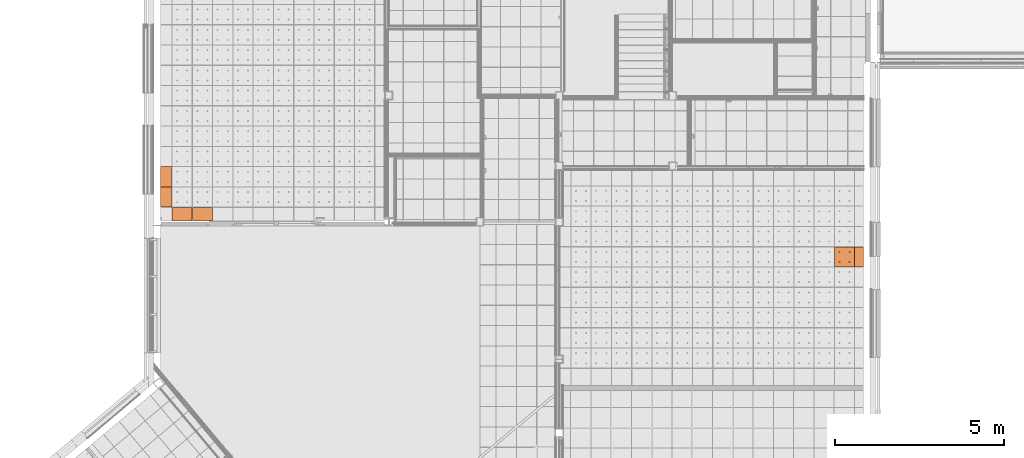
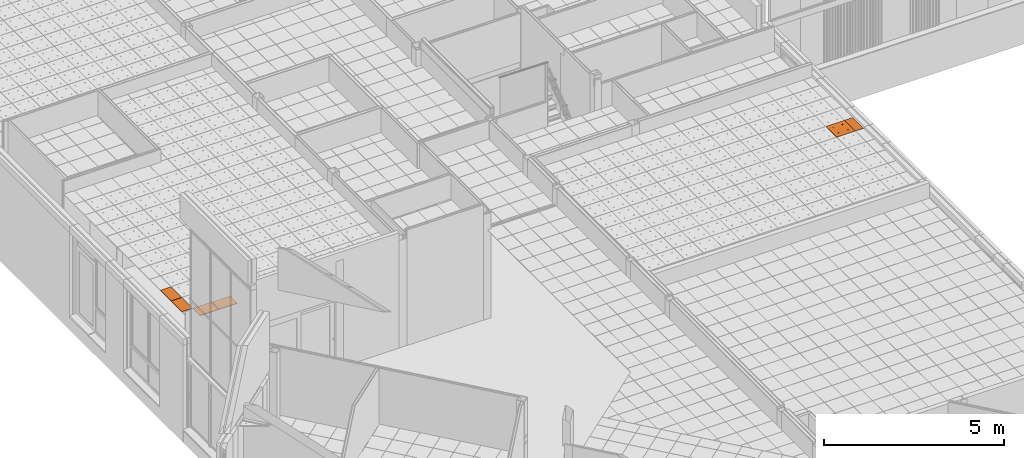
# One storey, part 231 of 338: 6 proxies, 2 elements without a shape of their own.
"""IFC2X3 building model written with IfcOpenShell, lengths in millimetres."""

from ifc_helpers import new_model, entity, si_unit, converted_unit, derived_unit, money_unit, direction, frame, origin_with_axes, place, context, subcontext, project, spatial, faceted_brep, source, transform, mapped, material, type_object, type_shapes, element, aggregate, save


model = new_model("IFC2X3")

# Units and contexts
model_context = context("Model", 3, precision=0.01, world=origin_with_axes(), true_north=direction((0.0, 1.0)))
plan_context = context("Plan", 3, precision=0.01, world=origin_with_axes(), true_north=direction((0.0, 1.0)))
body_context = subcontext(model_context, "Body", "Model", "MODEL_VIEW")
ifc_project = project(units=[si_unit("LENGTHUNIT", "METRE", prefix="MILLI"), si_unit("AREAUNIT", "SQUARE_METRE"), si_unit("VOLUMEUNIT", "CUBIC_METRE"), converted_unit("PLANEANGLEUNIT", "DEGREE", entity("IfcPlaneAngleMeasure", 0.0174532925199), si_unit("PLANEANGLEUNIT", "RADIAN"), dimensions=[0, 0, 0, 0, 0, 0, 0]), money_unit("EUR"), converted_unit("TIMEUNIT", "Year", entity("IfcTimeMeasure", 31556926.0), si_unit("TIMEUNIT", "SECOND"), dimensions=[0, 0, 1, 0, 0, 0, 0]), si_unit("MASSUNIT", "GRAM", prefix="KILO"), si_unit("THERMODYNAMICTEMPERATUREUNIT", "DEGREE_CELSIUS"), si_unit("LUMINOUSINTENSITYUNIT", "LUMEN"), si_unit("ENERGYUNIT", "JOULE", prefix="MEGA"), derived_unit("THERMALCONDUCTANCEUNIT", [(si_unit("POWERUNIT", "WATT"), 1), (si_unit("LENGTHUNIT", "METRE"), -1), (si_unit("THERMODYNAMICTEMPERATUREUNIT", "KELVIN"), -1)]), derived_unit("SPECIFICHEATCAPACITYUNIT", [(si_unit("ENERGYUNIT", "JOULE"), 1), (si_unit("MASSUNIT", "GRAM", prefix="KILO"), -1), (si_unit("THERMODYNAMICTEMPERATUREUNIT", "KELVIN"), -1)]), derived_unit("MASSDENSITYUNIT", [(si_unit("MASSUNIT", "GRAM", prefix="KILO"), 1), (si_unit("VOLUMEUNIT", "CUBIC_METRE"), -1)])], contexts=[model_context, plan_context])

# Site, building, storey
site_placement = place(None, origin_with_axes())
site = spatial("IfcSite", under=ifc_project, at=site_placement, Name="Fortuinstraat Woensdrecht", CompositionType="ELEMENT")
building_placement = place(site_placement, origin_with_axes())
building = spatial("IfcBuilding", under=site, at=building_placement, Name="IKC Fortuna", CompositionType="ELEMENT")
storey_placement = place(building_placement, origin_with_axes())
storey = spatial("IfcBuildingStorey", under=building, at=storey_placement, Name="00 begane grond", CompositionType="ELEMENT", Elevation=0.0)

# Covering, proxy
covering_type = type_object("IfcCoveringType", Name="Curtain Wall Type", PredefinedType="CEILING")
covering_1_placement = place(storey_placement, frame((31656.9226967, 15748.5304598, 3210.0), z_axis=(0.0, 0.0, 1.0), x_axis=(1.0, 0.0, 0.0)))
covering_1 = element("IfcCovering", 1, at=covering_1_placement, inside=storey, type_object=covering_type, Name="45_Plafondafwerking_P01", PredefinedType="CEILING")
ifc_material = material(Name="Gipsplaat")
building_element_proxy_type_1 = type_object("IfcBuildingElementProxyType", Name="Main Panel 600 x 600 x 20", PredefinedType="NOTDEFINED")
shared_shape_1 = source(origin_with_axes(), body_context, "Body", "Brep", [
    faceted_brep([(2.49999999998, 2.49999999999, -10.0), (300.0, 2.49999999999, -10.0), (300.0, 2.49999999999, 10.0), (2.49999999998, 2.49999999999, 10.0), (2.49999999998, 300.0, -10.0), (2.49999999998, 597.5, -10.0), (300.0, 597.5, -10.0), (597.5, 597.5, -10.0), (597.5, 300.0, -10.0), (597.5, 2.49999999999, -10.0), (166.25, 450.06232995, -10.0), (165.79423259, 452.64711538, -10.0), (164.896546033, 455.11348892, -10.0), (163.58421608, 457.38651108, -10.0), (161.897117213, 459.39711721, -10.0), (159.886511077, 461.08421608, -10.0), (157.613488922, 462.39654603, -10.0), (155.147115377, 463.29423259, -10.0), (152.562329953, 463.75, -10.0), (149.937670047, 463.75, -10.0), (147.352884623, 463.29423259, -10.0), (144.886511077, 462.39654603, -10.0), (142.613488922, 461.08421608, -10.0), (140.602882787, 459.39711721, -10.0), (138.91578392, 457.38651108, -10.0), (137.603453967, 455.11348892, -10.0), (136.705767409, 452.64711538, -10.0), (136.25, 450.06232995, -10.0), (136.25, 448.75, -10.0), (136.25, 447.43767005, -10.0), (136.705767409, 444.85288462, -10.0), (137.603453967, 442.38651108, -10.0), (138.91578392, 440.11348892, -10.0), (140.602882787, 438.10288279, -10.0), (142.613488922, 436.41578392, -10.0), (144.886511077, 435.10345397, -10.0), (147.352884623, 434.20576741, -10.0), (149.937670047, 433.75, -10.0), (152.562329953, 433.75, -10.0), (155.147115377, 434.20576741, -10.0), (157.613488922, 435.10345397, -10.0), (159.886511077, 436.41578392, -10.0), (161.897117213, 438.10288279, -10.0), (163.58421608, 440.11348892, -10.0), (164.896546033, 442.38651108, -10.0), (165.79423259, 444.85288462, -10.0), (166.25, 447.43767005, -10.0), (463.75, 450.06232995, -10.0), (463.29423259, 452.64711538, -10.0), (462.396546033, 455.11348892, -10.0), (461.08421608, 457.38651108, -10.0), (459.397117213, 459.39711721, -10.0), (457.386511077, 461.08421608, -10.0), (455.113488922, 462.39654603, -10.0), (452.647115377, 463.29423259, -10.0), (450.062329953, 463.75, -10.0), (447.437670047, 463.75, -10.0), (444.852884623, 463.29423259, -10.0), (442.386511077, 462.39654603, -10.0), (440.113488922, 461.08421608, -10.0), (438.102882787, 459.39711721, -10.0), (436.41578392, 457.38651108, -10.0), (435.103453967, 455.11348892, -10.0), (434.205767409, 452.64711538, -10.0), (433.75, 450.06232995, -10.0), (433.75, 448.75, -10.0), (433.75, 447.43767005, -10.0), (434.205767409, 444.85288462, -10.0), (435.103453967, 442.38651108, -10.0), (436.41578392, 440.11348892, -10.0), (438.102882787, 438.10288279, -10.0), (440.113488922, 436.41578392, -10.0), (442.386511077, 435.10345397, -10.0), (444.852884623, 434.20576741, -10.0), (447.437670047, 433.75, -10.0), (450.062329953, 433.75, -10.0), (452.647115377, 434.20576741, -10.0), (455.113488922, 435.10345397, -10.0), (457.386511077, 436.41578392, -10.0), (459.397117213, 438.10288279, -10.0), (461.08421608, 440.11348892, -10.0), (462.396546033, 442.38651108, -10.0), (463.29423259, 444.85288462, -10.0), (463.75, 447.43767005, -10.0), (463.75, 152.56232995, -10.0), (463.29423259, 155.14711538, -10.0), (462.396546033, 157.61348892, -10.0), (461.08421608, 159.88651108, -10.0), (459.397117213, 161.89711721, -10.0), (457.386511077, 163.58421608, -10.0), (455.113488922, 164.89654603, -10.0), (452.647115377, 165.79423259, -10.0), (450.062329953, 166.25, -10.0), (447.437670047, 166.25, -10.0), (444.852884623, 165.79423259, -10.0), (442.386511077, 164.89654603, -10.0), (440.113488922, 163.58421608, -10.0), (438.102882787, 161.89711721, -10.0), (436.41578392, 159.88651108, -10.0), (435.103453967, 157.61348892, -10.0), (434.205767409, 155.14711538, -10.0), (433.75, 152.56232995, -10.0), (433.75, 151.25, -10.0), (433.75, 149.93767005, -10.0), (434.205767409, 147.35288462, -10.0), (435.103453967, 144.88651108, -10.0), (436.41578392, 142.61348892, -10.0), (438.102882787, 140.60288279, -10.0), (440.113488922, 138.91578392, -10.0), (442.386511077, 137.60345397, -10.0), (444.852884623, 136.70576741, -10.0), (447.437670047, 136.25, -10.0), (450.062329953, 136.25, -10.0), (452.647115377, 136.70576741, -10.0), (455.113488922, 137.60345397, -10.0), (457.386511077, 138.91578392, -10.0), (459.397117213, 140.60288279, -10.0), (461.08421608, 142.61348892, -10.0), (462.396546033, 144.88651108, -10.0), (463.29423259, 147.35288462, -10.0), (463.75, 149.93767005, -10.0), (166.25, 152.56232995, -10.0), (165.79423259, 155.14711538, -10.0), (164.896546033, 157.61348892, -10.0), (163.58421608, 159.88651108, -10.0), (161.897117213, 161.89711721, -10.0), (159.886511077, 163.58421608, -10.0), (157.613488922, 164.89654603, -10.0), (155.147115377, 165.79423259, -10.0), (152.562329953, 166.25, -10.0), (149.937670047, 166.25, -10.0), (147.352884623, 165.79423259, -10.0), (144.886511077, 164.89654603, -10.0), (142.613488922, 163.58421608, -10.0), (140.602882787, 161.89711721, -10.0), (138.91578392, 159.88651108, -10.0), (137.603453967, 157.61348892, -10.0), (136.705767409, 155.14711538, -10.0), (136.25, 152.56232995, -10.0), (136.25, 151.25, -10.0), (136.25, 149.93767005, -10.0), (136.705767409, 147.35288462, -10.0), (137.603453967, 144.88651108, -10.0), (138.91578392, 142.61348892, -10.0), (140.602882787, 140.60288279, -10.0), (142.613488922, 138.91578392, -10.0), (144.886511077, 137.60345397, -10.0), (147.352884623, 136.70576741, -10.0), (149.937670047, 136.25, -10.0), (152.562329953, 136.25, -10.0), (155.147115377, 136.70576741, -10.0), (157.613488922, 137.60345397, -10.0), (159.886511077, 138.91578392, -10.0), (161.897117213, 140.60288279, -10.0), (163.58421608, 142.61348892, -10.0), (164.896546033, 144.88651108, -10.0), (165.79423259, 147.35288462, -10.0), (166.25, 149.93767005, -10.0), (597.5, 2.49999999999, 10.0), (597.5, 300.0, 10.0), (597.5, 597.5, 10.0), (300.0, 597.5, 10.0), (2.49999999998, 597.5, 10.0), (2.49999999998, 300.0, 10.0), (166.25, 450.06232995, 10.0), (166.25, 447.43767005, 10.0), (165.79423259, 444.85288462, 10.0), (164.896546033, 442.38651108, 10.0), (163.58421608, 440.11348892, 10.0), (161.897117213, 438.10288279, 10.0), (159.886511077, 436.41578392, 10.0), (157.613488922, 435.10345397, 10.0), (155.147115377, 434.20576741, 10.0), (152.562329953, 433.75, 10.0), (149.937670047, 433.75, 10.0), (147.352884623, 434.20576741, 10.0), (144.886511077, 435.10345397, 10.0), (142.613488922, 436.41578392, 10.0), (140.602882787, 438.10288279, 10.0), (138.91578392, 440.11348892, 10.0), (137.603453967, 442.38651108, 10.0), (136.705767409, 444.85288462, 10.0), (136.25, 447.43767005, 10.0), (136.25, 448.75, 10.0), (136.25, 450.06232995, 10.0), (136.705767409, 452.64711538, 10.0), (137.603453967, 455.11348892, 10.0), (138.91578392, 457.38651108, 10.0), (140.602882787, 459.39711721, 10.0), (142.613488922, 461.08421608, 10.0), (144.886511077, 462.39654603, 10.0), (147.352884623, 463.29423259, 10.0), (149.937670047, 463.75, 10.0), (152.562329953, 463.75, 10.0), (155.147115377, 463.29423259, 10.0), (157.613488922, 462.39654603, 10.0), (159.886511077, 461.08421608, 10.0), (161.897117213, 459.39711721, 10.0), (163.58421608, 457.38651108, 10.0), (164.896546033, 455.11348892, 10.0), (165.79423259, 452.64711538, 10.0), (463.75, 450.06232995, 10.0), (463.75, 447.43767005, 10.0), (463.29423259, 444.85288462, 10.0), (462.396546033, 442.38651108, 10.0), (461.08421608, 440.11348892, 10.0), (459.397117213, 438.10288279, 10.0), (457.386511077, 436.41578392, 10.0), (455.113488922, 435.10345397, 10.0), (452.647115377, 434.20576741, 10.0), (450.062329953, 433.75, 10.0), (447.437670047, 433.75, 10.0), (444.852884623, 434.20576741, 10.0), (442.386511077, 435.10345397, 10.0), (440.113488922, 436.41578392, 10.0), (438.102882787, 438.10288279, 10.0), (436.41578392, 440.11348892, 10.0), (435.103453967, 442.38651108, 10.0), (434.205767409, 444.85288462, 10.0), (433.75, 447.43767005, 10.0), (433.75, 448.75, 10.0), (433.75, 450.06232995, 10.0), (434.205767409, 452.64711538, 10.0), (435.103453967, 455.11348892, 10.0), (436.41578392, 457.38651108, 10.0), (438.102882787, 459.39711721, 10.0), (440.113488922, 461.08421608, 10.0), (442.386511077, 462.39654603, 10.0), (444.852884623, 463.29423259, 10.0), (447.437670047, 463.75, 10.0), (450.062329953, 463.75, 10.0), (452.647115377, 463.29423259, 10.0), (455.113488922, 462.39654603, 10.0), (457.386511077, 461.08421608, 10.0), (459.397117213, 459.39711721, 10.0), (461.08421608, 457.38651108, 10.0), (462.396546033, 455.11348892, 10.0), (463.29423259, 452.64711538, 10.0), (463.75, 152.56232995, 10.0), (463.75, 149.93767005, 10.0), (463.29423259, 147.35288462, 10.0), (462.396546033, 144.88651108, 10.0), (461.08421608, 142.61348892, 10.0), (459.397117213, 140.60288279, 10.0), (457.386511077, 138.91578392, 10.0), (455.113488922, 137.60345397, 10.0), (452.647115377, 136.70576741, 10.0), (450.062329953, 136.25, 10.0), (447.437670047, 136.25, 10.0), (444.852884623, 136.70576741, 10.0), (442.386511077, 137.60345397, 10.0), (440.113488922, 138.91578392, 10.0), (438.102882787, 140.60288279, 10.0), (436.41578392, 142.61348892, 10.0), (435.103453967, 144.88651108, 10.0), (434.205767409, 147.35288462, 10.0), (433.75, 149.93767005, 10.0), (433.75, 151.25, 10.0), (433.75, 152.56232995, 10.0), (434.205767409, 155.14711538, 10.0), (435.103453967, 157.61348892, 10.0), (436.41578392, 159.88651108, 10.0), (438.102882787, 161.89711721, 10.0), (440.113488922, 163.58421608, 10.0), (442.386511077, 164.89654603, 10.0), (444.852884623, 165.79423259, 10.0), (447.437670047, 166.25, 10.0), (450.062329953, 166.25, 10.0), (452.647115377, 165.79423259, 10.0), (455.113488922, 164.89654603, 10.0), (457.386511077, 163.58421608, 10.0), (459.397117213, 161.89711721, 10.0), (461.08421608, 159.88651108, 10.0), (462.396546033, 157.61348892, 10.0), (463.29423259, 155.14711538, 10.0), (166.25, 152.56232995, 10.0), (166.25, 149.93767005, 10.0), (165.79423259, 147.35288462, 10.0), (164.896546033, 144.88651108, 10.0), (163.58421608, 142.61348892, 10.0), (161.897117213, 140.60288279, 10.0), (159.886511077, 138.91578392, 10.0), (157.613488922, 137.60345397, 10.0), (155.147115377, 136.70576741, 10.0), (152.562329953, 136.25, 10.0), (149.937670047, 136.25, 10.0), (147.352884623, 136.70576741, 10.0), (144.886511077, 137.60345397, 10.0), (142.613488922, 138.91578392, 10.0), (140.602882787, 140.60288279, 10.0), (138.91578392, 142.61348892, 10.0), (137.603453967, 144.88651108, 10.0), (136.705767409, 147.35288462, 10.0), (136.25, 149.93767005, 10.0), (136.25, 151.25, 10.0), (136.25, 152.56232995, 10.0), (136.705767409, 155.14711538, 10.0), (137.603453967, 157.61348892, 10.0), (138.91578392, 159.88651108, 10.0), (140.602882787, 161.89711721, 10.0), (142.613488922, 163.58421608, 10.0), (144.886511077, 164.89654603, 10.0), (147.352884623, 165.79423259, 10.0), (149.937670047, 166.25, 10.0), (152.562329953, 166.25, 10.0), (155.147115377, 165.79423259, 10.0), (157.613488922, 164.89654603, 10.0), (159.886511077, 163.58421608, 10.0), (161.897117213, 161.89711721, 10.0), (163.58421608, 159.88651108, 10.0), (164.896546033, 157.61348892, 10.0), (165.79423259, 155.14711538, 10.0)], [[[0, 1, 2, 3]], [[0, 4, 5, 6, 7, 8, 9, 1], [10, 11, 12, 13, 14, 15, 16, 17, 18, 19, 20, 21, 22, 23, 24, 25, 26, 27, 28, 29, 30, 31, 32, 33, 34, 35, 36, 37, 38, 39, 40, 41, 42, 43, 44, 45, 46], [47, 48, 49, 50, 51, 52, 53, 54, 55, 56, 57, 58, 59, 60, 61, 62, 63, 64, 65, 66, 67, 68, 69, 70, 71, 72, 73, 74, 75, 76, 77, 78, 79, 80, 81, 82, 83], [84, 85, 86, 87, 88, 89, 90, 91, 92, 93, 94, 95, 96, 97, 98, 99, 100, 101, 102, 103, 104, 105, 106, 107, 108, 109, 110, 111, 112, 113, 114, 115, 116, 117, 118, 119, 120], [121, 122, 123, 124, 125, 126, 127, 128, 129, 130, 131, 132, 133, 134, 135, 136, 137, 138, 139, 140, 141, 142, 143, 144, 145, 146, 147, 148, 149, 150, 151, 152, 153, 154, 155, 156, 157]], [[1, 9, 158, 2]], [[3, 2, 158, 159, 160, 161, 162, 163], [164, 165, 166, 167, 168, 169, 170, 171, 172, 173, 174, 175, 176, 177, 178, 179, 180, 181, 182, 183, 184, 185, 186, 187, 188, 189, 190, 191, 192, 193, 194, 195, 196, 197, 198, 199, 200], [201, 202, 203, 204, 205, 206, 207, 208, 209, 210, 211, 212, 213, 214, 215, 216, 217, 218, 219, 220, 221, 222, 223, 224, 225, 226, 227, 228, 229, 230, 231, 232, 233, 234, 235, 236, 237], [238, 239, 240, 241, 242, 243, 244, 245, 246, 247, 248, 249, 250, 251, 252, 253, 254, 255, 256, 257, 258, 259, 260, 261, 262, 263, 264, 265, 266, 267, 268, 269, 270, 271, 272, 273, 274], [275, 276, 277, 278, 279, 280, 281, 282, 283, 284, 285, 286, 287, 288, 289, 290, 291, 292, 293, 294, 295, 296, 297, 298, 299, 300, 301, 302, 303, 304, 305, 306, 307, 308, 309, 310, 311]], [[4, 0, 3, 163]], [[5, 4, 163, 162]], [[6, 5, 162, 161]], [[7, 6, 161, 160]], [[8, 7, 160, 159]], [[9, 8, 159, 158]], [[11, 10, 164, 200]], [[12, 11, 200, 199]], [[13, 12, 199, 198]], [[14, 13, 198, 197]], [[15, 14, 197, 196]], [[16, 15, 196, 195]], [[17, 16, 195, 194]], [[18, 17, 194, 193]], [[19, 18, 193, 192]], [[20, 19, 192, 191]], [[21, 20, 191, 190]], [[22, 21, 190, 189]], [[23, 22, 189, 188]], [[24, 23, 188, 187]], [[25, 24, 187, 186]], [[26, 25, 186, 185]], [[27, 26, 185, 184]], [[28, 27, 184, 183]], [[29, 28, 183, 182]], [[30, 29, 182, 181]], [[31, 30, 181, 180]], [[32, 31, 180, 179]], [[33, 32, 179, 178]], [[34, 33, 178, 177]], [[35, 34, 177, 176]], [[36, 35, 176, 175]], [[37, 36, 175, 174]], [[38, 37, 174, 173]], [[39, 38, 173, 172]], [[40, 39, 172, 171]], [[41, 40, 171, 170]], [[42, 41, 170, 169]], [[43, 42, 169, 168]], [[44, 43, 168, 167]], [[45, 44, 167, 166]], [[46, 45, 166, 165]], [[10, 46, 165, 164]], [[48, 47, 201, 237]], [[49, 48, 237, 236]], [[50, 49, 236, 235]], [[51, 50, 235, 234]], [[52, 51, 234, 233]], [[53, 52, 233, 232]], [[54, 53, 232, 231]], [[55, 54, 231, 230]], [[56, 55, 230, 229]], [[57, 56, 229, 228]], [[58, 57, 228, 227]], [[59, 58, 227, 226]], [[60, 59, 226, 225]], [[61, 60, 225, 224]], [[62, 61, 224, 223]], [[63, 62, 223, 222]], [[64, 63, 222, 221]], [[65, 64, 221, 220]], [[66, 65, 220, 219]], [[67, 66, 219, 218]], [[68, 67, 218, 217]], [[69, 68, 217, 216]], [[70, 69, 216, 215]], [[71, 70, 215, 214]], [[72, 71, 214, 213]], [[73, 72, 213, 212]], [[74, 73, 212, 211]], [[75, 74, 211, 210]], [[76, 75, 210, 209]], [[77, 76, 209, 208]], [[78, 77, 208, 207]], [[79, 78, 207, 206]], [[80, 79, 206, 205]], [[81, 80, 205, 204]], [[82, 81, 204, 203]], [[83, 82, 203, 202]], [[47, 83, 202, 201]], [[85, 84, 238, 274]], [[86, 85, 274, 273]], [[87, 86, 273, 272]], [[88, 87, 272, 271]], [[89, 88, 271, 270]], [[90, 89, 270, 269]], [[91, 90, 269, 268]], [[92, 91, 268, 267]], [[93, 92, 267, 266]], [[94, 93, 266, 265]], [[95, 94, 265, 264]], [[96, 95, 264, 263]], [[97, 96, 263, 262]], [[98, 97, 262, 261]], [[99, 98, 261, 260]], [[100, 99, 260, 259]], [[101, 100, 259, 258]], [[102, 101, 258, 257]], [[103, 102, 257, 256]], [[104, 103, 256, 255]], [[105, 104, 255, 254]], [[106, 105, 254, 253]], [[107, 106, 253, 252]], [[108, 107, 252, 251]], [[109, 108, 251, 250]], [[110, 109, 250, 249]], [[111, 110, 249, 248]], [[112, 111, 248, 247]], [[113, 112, 247, 246]], [[114, 113, 246, 245]], [[115, 114, 245, 244]], [[116, 115, 244, 243]], [[117, 116, 243, 242]], [[118, 117, 242, 241]], [[119, 118, 241, 240]], [[120, 119, 240, 239]], [[84, 120, 239, 238]], [[122, 121, 275, 311]], [[123, 122, 311, 310]], [[124, 123, 310, 309]], [[125, 124, 309, 308]], [[126, 125, 308, 307]], [[127, 126, 307, 306]], [[128, 127, 306, 305]], [[129, 128, 305, 304]], [[130, 129, 304, 303]], [[131, 130, 303, 302]], [[132, 131, 302, 301]], [[133, 132, 301, 300]], [[134, 133, 300, 299]], [[135, 134, 299, 298]], [[136, 135, 298, 297]], [[137, 136, 297, 296]], [[138, 137, 296, 295]], [[139, 138, 295, 294]], [[140, 139, 294, 293]], [[141, 140, 293, 292]], [[142, 141, 292, 291]], [[143, 142, 291, 290]], [[144, 143, 290, 289]], [[145, 144, 289, 288]], [[146, 145, 288, 287]], [[147, 146, 287, 286]], [[148, 147, 286, 285]], [[149, 148, 285, 284]], [[150, 149, 284, 283]], [[151, 150, 283, 282]], [[152, 151, 282, 281]], [[153, 152, 281, 280]], [[154, 153, 280, 279]], [[155, 154, 279, 278]], [[156, 155, 278, 277]], [[157, 156, 277, 276]], [[121, 157, 276, 275]]]),
])
type_shapes(building_element_proxy_type_1, [shared_shape_1])
proxy_1_placement = place(covering_1_placement, frame((2400.0, -600.0, 0.0), z_axis=(0.0, 0.0, 1.0), x_axis=(1.0, 0.0, 0.0)))
proxy_1 = element("IfcBuildingElementProxy", 2, at=proxy_1_placement, type_object=building_element_proxy_type_1, material=ifc_material, Name="__600x731 Rockfon Krios", context=body_context, shape_type="MappedRepresentation", body=[
    mapped(shared_shape_1, transform((300.0, 300.0, 0.0), x_axis=(-1.0, 0.0, 0.0), y_axis=(0.0, -1.0, 0.0), z_axis=(0.0, 0.0, 1.0))),
])

# Covering, proxies
covering_2_placement = place(storey_placement, frame((17451.9845996, 24118.5314449, 3210.0), z_axis=(0.0, 0.0, 1.0), x_axis=(1.0, 0.0, 0.0)))
covering_2 = element("IfcCovering", 3, at=covering_2_placement, inside=storey, type_object=covering_type, Name="45_Plafondafwerking_P01", PredefinedType="CEILING")
building_element_proxy_type_2 = type_object("IfcBuildingElementProxyType", Name="343 x 600 x 20", PredefinedType="NOTDEFINED")
shared_shape_2 = source(origin_with_axes(), body_context, "Body", "Brep", [
    faceted_brep([(2.49999910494, 2.5, -10.0), (340.049548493, 2.49999999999, -10.0), (340.049548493, 2.49999999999, 10.0), (2.49999910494, 2.5, 10.0), (2.49999910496, 597.5, -10.0), (340.049548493, 597.5, -10.0), (340.049548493, 597.5, 10.0), (2.49999910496, 597.5, 10.0)], [[[0, 1, 2, 3]], [[0, 4, 5, 1]], [[1, 5, 6, 2]], [[3, 2, 6, 7]], [[4, 0, 3, 7]], [[5, 4, 7, 6]]]),
])
type_shapes(building_element_proxy_type_2, [shared_shape_2])
proxy_2_placement = place(covering_2_placement, frame((-3471.27477425, -6600.0, 2.11830553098e-10), z_axis=(0.0, 0.0, 1.0), x_axis=(1.0, 0.0, 0.0)))
proxy_2 = element("IfcBuildingElementProxy", 4, at=proxy_2_placement, type_object=building_element_proxy_type_2, material=ifc_material, Name="__600x606 Rockfon Krios", context=body_context, shape_type="MappedRepresentation", body=[
    mapped(shared_shape_2, transform((171.274774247, 300.0, 0.0), x_axis=(-1.0, 0.0, 0.0), y_axis=(0.0, -1.0, 0.0), z_axis=(0.0, 0.0, 1.0))),
])
proxy_3_placement = place(covering_2_placement, frame((-3471.27480765, -7200.0, 2.11830553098e-10), z_axis=(0.0, 0.0, 1.0), x_axis=(1.0, 0.0, 0.0)))
proxy_3 = element("IfcBuildingElementProxy", 5, at=proxy_3_placement, type_object=building_element_proxy_type_2, material=ifc_material, Name="__600x617 Rockfon Krios", context=body_context, shape_type="MappedRepresentation", body=[
    mapped(shared_shape_2, transform((171.274807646, 300.0, 0.0), x_axis=(-1.0, 0.0, 0.0), y_axis=(0.0, -1.0, 0.0), z_axis=(0.0, 0.0, 1.0))),
])
building_element_proxy_type_3 = type_object("IfcBuildingElementProxyType", Name="600 x 410 x 20", PredefinedType="NOTDEFINED")
shared_shape_3 = source(origin_with_axes(), body_context, "Body", "Brep", [
    faceted_brep([(2.5, 2.50000298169, -10.0), (597.5, 2.50000298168, -10.0), (597.5, 2.50000298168, 10.0), (2.5, 2.50000298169, 10.0), (2.50000000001, 407.734830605, -10.0), (597.5, 407.734830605, -10.0), (597.5, 407.734830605, 10.0), (2.50000000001, 407.734830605, 10.0)], [[[0, 1, 2, 3]], [[0, 4, 5, 1]], [[1, 5, 6, 2]], [[3, 2, 6, 7]], [[4, 0, 3, 7]], [[5, 4, 7, 6]]]),
])
type_shapes(building_element_proxy_type_3, [shared_shape_3])
proxy_4_placement = place(covering_2_placement, frame((-3000.0, -7705.1174153, 1.96287430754e-10), z_axis=(0.0, 0.0, 1.0), x_axis=(1.0, 0.0, 0.0)))
proxy_4 = element("IfcBuildingElementProxy", 6, at=proxy_4_placement, type_object=building_element_proxy_type_3, material=ifc_material, Name="__600x656 Rockfon Krios", context=body_context, shape_type="MappedRepresentation", body=[
    mapped(shared_shape_3, transform((300.0, 205.117415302, 0.0), x_axis=(-1.0, 0.0, 0.0), y_axis=(0.0, -1.0, 0.0), z_axis=(0.0, 0.0, 1.0))),
])
proxy_5_placement = place(covering_2_placement, frame((-2400.0, -7705.1174153, 1.7630341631e-10), z_axis=(0.0, 0.0, 1.0), x_axis=(1.0, 0.0, 0.0)))
proxy_5 = element("IfcBuildingElementProxy", 7, at=proxy_5_placement, type_object=building_element_proxy_type_3, material=ifc_material, Name="__600x769 Rockfon Krios", context=body_context, shape_type="MappedRepresentation", body=[
    mapped(shared_shape_3, transform((300.0, 205.117415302, 0.0), x_axis=(-1.0, 0.0, 0.0), y_axis=(0.0, -1.0, 0.0), z_axis=(0.0, 0.0, 1.0))),
])
aggregate(covering_2, [proxy_2, proxy_3, proxy_4, proxy_5])

# Proxy
building_element_proxy_type_4 = type_object("IfcBuildingElementProxyType", Name="263 x 600 x 20", PredefinedType="NOTDEFINED")
shared_shape_4 = source(origin_with_axes(), body_context, "Body", "Brep", [
    faceted_brep([(339.99569058, 2.5, -10.0), (597.5, 2.49999999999, -10.0), (597.5, 2.49999999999, 10.0), (339.99569058, 2.5, 10.0), (339.99569058, 597.5, -10.0), (597.5, 597.5, -10.0), (597.5, 597.5, 10.0), (339.99569058, 597.5, 10.0)], [[[0, 1, 2, 3]], [[0, 4, 5, 1]], [[1, 5, 6, 2]], [[3, 2, 6, 7]], [[4, 0, 3, 7]], [[5, 4, 7, 6]]]),
])
type_shapes(building_element_proxy_type_4, [shared_shape_4])
proxy_6_placement = place(covering_1_placement, frame((2831.25215667, -600.0, 0.0), z_axis=(0.0, 0.0, 1.0), x_axis=(1.0, 0.0, 0.0)))
proxy_6 = element("IfcBuildingElementProxy", 8, at=proxy_6_placement, type_object=building_element_proxy_type_4, material=ifc_material, Name="__600x771 Rockfon Krios", context=body_context, shape_type="MappedRepresentation", body=[
    mapped(shared_shape_4, transform((468.747843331, 300.0, 0.0), x_axis=(-1.0, 0.0, 0.0), y_axis=(0.0, -1.0, 0.0), z_axis=(0.0, 0.0, 1.0))),
])

aggregate(covering_1, [proxy_1, proxy_6])

save(model, "model.ifc")
